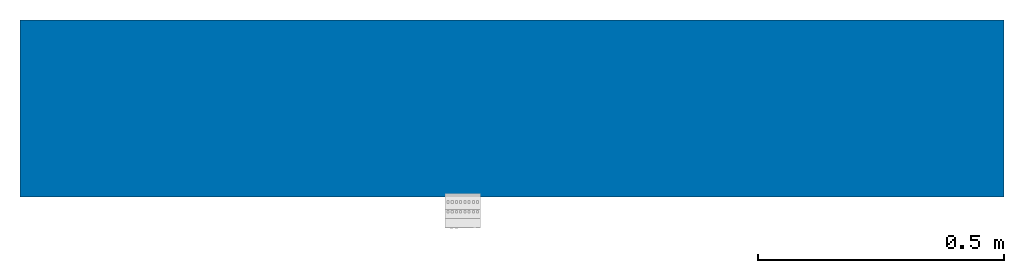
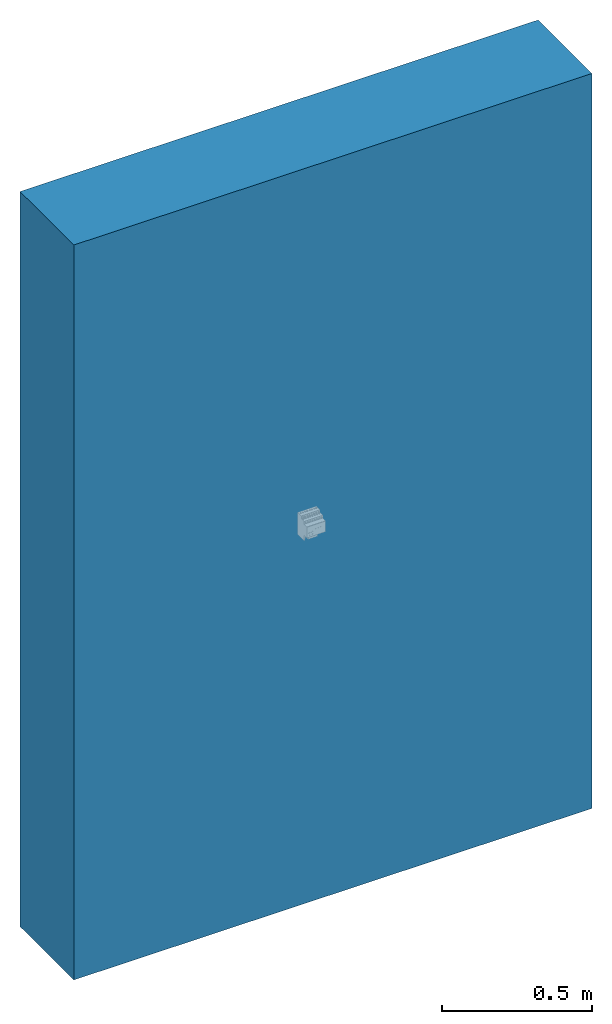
# One storey, incomplete: 1 wall.
"""IFC2X3 building model written with IfcOpenShell, lengths in metres."""

from ifc_helpers import new_model, entity, si_unit, converted_unit, derived_unit, direction, frame, frame_2d, origin, place, context, subcontext, project, spatial, rectangle, extrude, material, layer, layer_set, layer_usage, type_object, element, save


model = new_model("IFC2X3")

# Units and contexts
model_context = context("Model", 3, precision=1e-05, world=origin(), true_north=direction((6.12303176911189e-17, 1.0)))
body_context = subcontext(model_context, "Body", "Model", "MODEL_VIEW")
ifc_project = project(units=[si_unit("LENGTHUNIT", "METRE"), si_unit("AREAUNIT", "SQUARE_METRE"), si_unit("VOLUMEUNIT", "CUBIC_METRE"), converted_unit("PLANEANGLEUNIT", "DEGREE", entity("IfcRatioMeasure", 0.0174532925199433), si_unit("PLANEANGLEUNIT", "RADIAN"), dimensions=[0, 0, 0, 0, 0, 0, 0]), si_unit("MASSUNIT", "GRAM", prefix="KILO"), si_unit("TIMEUNIT", "SECOND"), si_unit("FREQUENCYUNIT", "HERTZ"), si_unit("THERMODYNAMICTEMPERATUREUNIT", "DEGREE_CELSIUS"), derived_unit("THERMALTRANSMITTANCEUNIT", [(si_unit("MASSUNIT", "GRAM", prefix="KILO"), 1), (si_unit("THERMODYNAMICTEMPERATUREUNIT", "KELVIN"), -1), (si_unit("TIMEUNIT", "SECOND"), -3)]), derived_unit("VOLUMETRICFLOWRATEUNIT", [(si_unit("LENGTHUNIT", "METRE"), 3), (si_unit("TIMEUNIT", "SECOND"), -1)]), si_unit("ELECTRICCURRENTUNIT", "AMPERE"), si_unit("ELECTRICVOLTAGEUNIT", "VOLT"), si_unit("POWERUNIT", "WATT"), si_unit("FORCEUNIT", "NEWTON", prefix="KILO"), si_unit("ILLUMINANCEUNIT", "LUX"), si_unit("LUMINOUSFLUXUNIT", "LUMEN"), si_unit("LUMINOUSINTENSITYUNIT", "CANDELA"), derived_unit("USERDEFINED", [(si_unit("MASSUNIT", "GRAM", prefix="KILO"), -1), (si_unit("LENGTHUNIT", "METRE"), -2), (si_unit("TIMEUNIT", "SECOND"), 3), (si_unit("LUMINOUSFLUXUNIT", "LUMEN"), 1)]), derived_unit("LINEARVELOCITYUNIT", [(si_unit("LENGTHUNIT", "METRE"), 1), (si_unit("TIMEUNIT", "SECOND"), -1)]), si_unit("PRESSUREUNIT", "PASCAL"), derived_unit("USERDEFINED", [(si_unit("LENGTHUNIT", "METRE"), -2), (si_unit("MASSUNIT", "GRAM", prefix="KILO"), 1), (si_unit("TIMEUNIT", "SECOND"), -2)])], contexts=[model_context])

# Site, building, storey
site_placement = place(None, origin())
site = spatial("IfcSite", under=ifc_project, at=site_placement, Name="Default", CompositionType="ELEMENT")
building_placement = place(site_placement, origin())
building = spatial("IfcBuilding", under=site, at=building_placement, CompositionType="ELEMENT")
storey_placement = place(building_placement, origin())
storey = spatial("IfcBuildingStorey", under=building, at=storey_placement, Name="Ebene 0", CompositionType="ELEMENT", Elevation=0.0)

# Wall
ifc_material_1 = material(Name="Wärmedämmung - hart")
ifc_layer_1 = layer(ifc_material_1, 0.12)
ifc_material_2 = material(Name="Mauerwerk - Ziegel, verputzt")
ifc_layer_2 = layer(ifc_material_2, 0.24)
ifc_layer_set = layer_set([ifc_layer_1, ifc_layer_2], Name="Basiswand:MW 24.0 WD 12.0")
ifc_layer_usage = layer_usage(ifc_layer_set, "AXIS2", "NEGATIVE", 0.18)
wall_type = type_object("IfcWallType", Name="Basiswand:MW 24.0 WD 12.0", PredefinedType="STANDARD", material=ifc_layer_set)
wall_placement = place(storey_placement, frame((-5.81946454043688, -2.13536661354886, 0.0)))
element("IfcWallStandardCase", 1, at=wall_placement, inside=storey, type_object=wall_type, material=ifc_layer_usage, Name="Basiswand:MW 24.0 WD 12.0", ObjectType="Basiswand:MW 24.0 WD 12.0:3900", context=body_context, shape_type="SweptSolid", body=[
    extrude(rectangle(XDim=2.0, YDim=0.36, at=frame_2d((1.0, -6.93889390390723e-17), x_axis=(-1.0, 0.0))), origin(), (0.0, 0.0, 1.0), 3.0),
])

save(model, "model.ifc")
